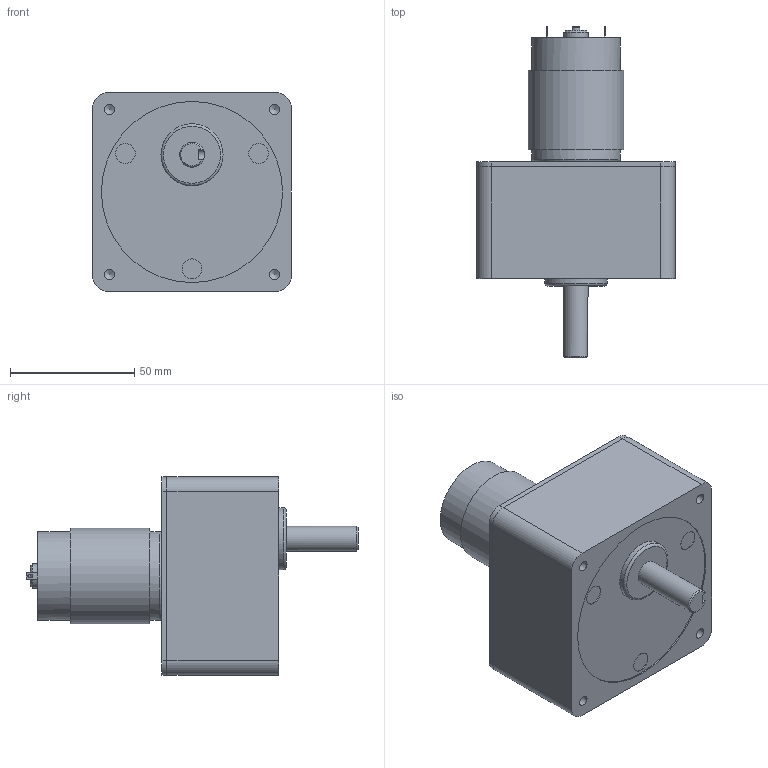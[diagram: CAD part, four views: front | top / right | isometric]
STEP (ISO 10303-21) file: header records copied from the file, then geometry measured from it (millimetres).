
FILE_DESCRIPTION(/* description */ (''),/* implementation_level */ '2;1');
FILE_NAME(/* name */ 'TP-3850-DM-3~4.stp',/* time_stamp */ '2024-05-31T18:15:06+09:00',/* author */ ('user'),/* organization */ (''),/* preprocessor_version */ 'ST-DEVELOPER v20',/* originating_system */ 'Autodesk Inventor 2024',/* authorisation */ '');
FILE_SCHEMA (('AUTOMOTIVE_DESIGN { 1 0 10303 214 3 1 1 }'));
Length unit declared in the file: millimetre
Products named in the file (4): TP-3850-DM-25~180-J00-24; TP-3850K(RS-645); DM-3.4; BR0035-Y014
Assembly tree (3 placements, depth 2):
  TP-3850-DM-25~180-J00-24
    TP-3850K(RS-645)
    DM-3.4
    BR0035-Y014
Bounding box: 80 x 133.8 x 80 mm (x, y, z)
Volume: 341007 mm3; surface area: 53602.8 mm2
Topology: 4 solids, 4 shells, 142 faces, 310 edges, 204 vertices
Faces by surface type: plane 73, cylinder 50, torus 10, cone 9
Full cylindrical faces by diameter (mm): 1.5 x1, 2.459 x2, 2.5 x5, 3.17 x2, 4.134 x4, 5.5 x4, 7.4 x1, 8 x3, 9.8 x1, 10 x1, 11 x1, 13 x1, 15.1 x1, 25 x1, 34.8 x1, 35.8 x1, 73 x2
Entity records: 4151 total; most frequent: DIRECTION 732, CARTESIAN_POINT 679, ORIENTED_EDGE 608, EDGE_CURVE 304, AXIS2_PLACEMENT_3D 283, VERTEX_POINT 204, EDGE_LOOP 182, LINE 166
